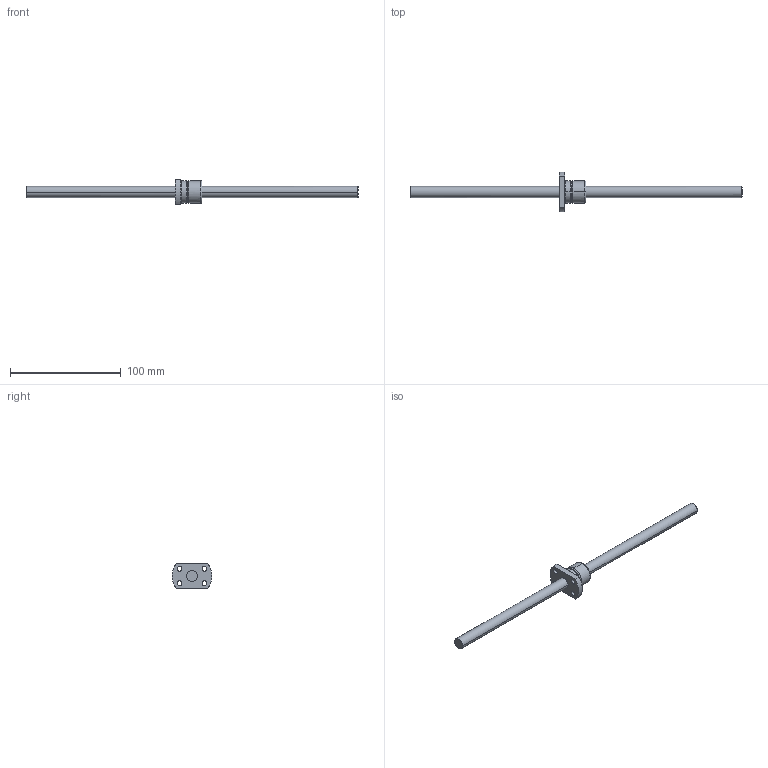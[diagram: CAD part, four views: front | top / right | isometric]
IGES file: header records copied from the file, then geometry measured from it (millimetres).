
Global section: file name: No Iges File Name specified; native system: AutoDesk Inventor R10; preprocessor: AutoDesk Inventor Iges Exporter R10; author: No Author specified; organization: No Organization specified; date: 20101224.153850; units: millimetre
Bounding box: 300 x 35.98 x 22 mm (x, y, z)
Surface area: 13515.1 mm2 (no closed solid volume)
Topology: 0 solids, 0 shells, 35 faces, 272 edges, 272 vertices
Faces by surface type: bspline 35
